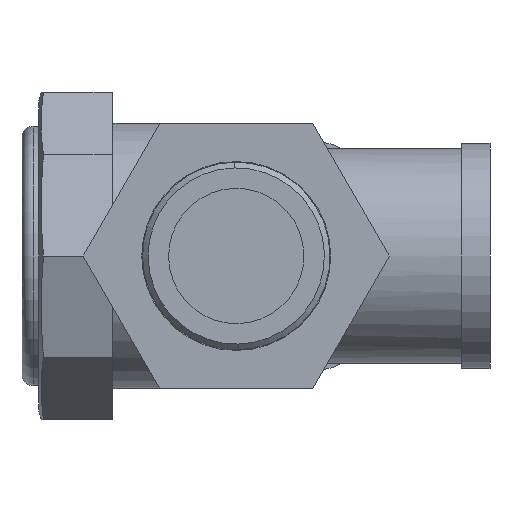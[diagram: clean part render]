
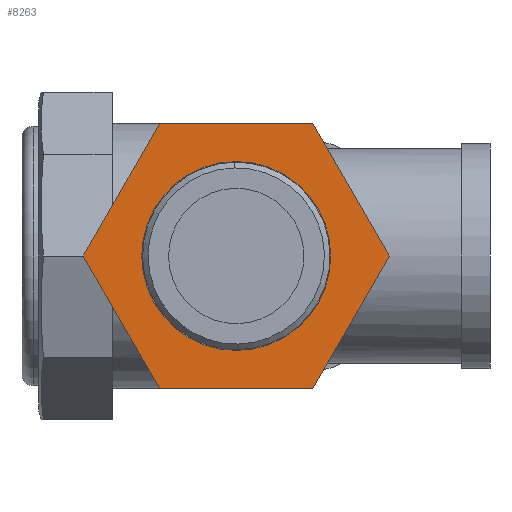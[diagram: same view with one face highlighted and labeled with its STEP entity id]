
A CAD part, left-side view. The second image highlights one B-rep face of the part: STEP entity #8263.
In plain terms, the highlighted planar face has unit normal (-1, 0, 0).
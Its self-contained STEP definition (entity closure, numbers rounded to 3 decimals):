
#1891 = AXIS2_PLACEMENT_3D ( 'NONE', #1899, #1953, #1952 ) ;
#1892 = CIRCLE ( 'NONE', #1891, 16.75 ) ;
#1899 = CARTESIAN_POINT ( 'NONE',  ( -53.077, 6.155, 0. ) ) ;
#1952 = DIRECTION ( 'NONE',  ( 0., -0.5, -0.866 ) ) ;
#1953 = DIRECTION ( 'NONE',  ( -1., 0., 0. ) ) ;
#2046 = DIRECTION ( 'NONE',  ( 0., 0.5, 0.866 ) ) ;
#2047 = DIRECTION ( 'NONE',  ( 1., 0., 0. ) ) ;
#2048 = CARTESIAN_POINT ( 'NONE',  ( -53.077, -34.548, 23.5 ) ) ;
#2049 = AXIS2_PLACEMENT_3D ( 'NONE', #2048, #2047, #2046 ) ;
#2050 = PLANE ( 'NONE',  #2049 ) ;
#2057 = FACE_BOUND ( 'NONE', #8210, .T. ) ;
#2063 = CARTESIAN_POINT ( 'NONE',  ( -53.077, 19.723, 23.5 ) ) ;
#2064 = CARTESIAN_POINT ( 'NONE',  ( -53.077, -7.413, 23.5 ) ) ;
#2065 = DIRECTION ( 'NONE',  ( 0., 1., 0. ) ) ;
#2066 = VECTOR ( 'NONE', #2065, 1000. ) ;
#2067 = CARTESIAN_POINT ( 'NONE',  ( -53.077, -7.413, 23.5 ) ) ;
#2068 = LINE ( 'NONE', #2067, #2066 ) ;
#2074 = FACE_OUTER_BOUND ( 'NONE', #8103, .T. ) ;
#2130 = DIRECTION ( 'NONE',  ( 0., -0.5, -0.866 ) ) ;
#2134 = CARTESIAN_POINT ( 'NONE',  ( -53.077, 33.29, 0. ) ) ;
#2135 = DIRECTION ( 'NONE',  ( 0., 0.5, -0.866 ) ) ;
#2136 = VECTOR ( 'NONE', #2135, 1000. ) ;
#2144 = DIRECTION ( 'NONE',  ( -1., 0., 0. ) ) ;
#2145 = CARTESIAN_POINT ( 'NONE',  ( -53.077, 6.155, 0. ) ) ;
#2146 = AXIS2_PLACEMENT_3D ( 'NONE', #2145, #2144, #2130 ) ;
#2147 = CIRCLE ( 'NONE', #2146, 16.75 ) ;
#2161 = CARTESIAN_POINT ( 'NONE',  ( -53.077, -20.981, 0. ) ) ;
#2162 = DIRECTION ( 'NONE',  ( 0., -0.5, 0.866 ) ) ;
#2163 = VECTOR ( 'NONE', #2162, 1000. ) ;
#2164 = CARTESIAN_POINT ( 'NONE',  ( -53.077, -7.413, -23.5 ) ) ;
#2165 = LINE ( 'NONE', #2164, #2163 ) ;
#2184 = DIRECTION ( 'NONE',  ( 0., -0.5, -0.866 ) ) ;
#2185 = VECTOR ( 'NONE', #2184, 1000. ) ;
#2186 = CARTESIAN_POINT ( 'NONE',  ( -53.077, 33.29, 0. ) ) ;
#2187 = LINE ( 'NONE', #2186, #2185 ) ;
#2193 = CARTESIAN_POINT ( 'NONE',  ( -53.077, 19.723, 23.5 ) ) ;
#2194 = LINE ( 'NONE', #2193, #2136 ) ;
#2206 = CARTESIAN_POINT ( 'NONE',  ( -53.077, 19.723, -23.5 ) ) ;
#2208 = CARTESIAN_POINT ( 'NONE',  ( -53.077, -7.413, -23.5 ) ) ;
#2209 = DIRECTION ( 'NONE',  ( 0., -1., 0. ) ) ;
#2210 = VECTOR ( 'NONE', #2209, 1000. ) ;
#2211 = CARTESIAN_POINT ( 'NONE',  ( -53.077, 19.723, -23.5 ) ) ;
#2212 = LINE ( 'NONE', #2211, #2210 ) ;
#4518 = CARTESIAN_POINT ( 'NONE',  ( -53.077, -2.22, -14.506 ) ) ;
#4521 = CARTESIAN_POINT ( 'NONE',  ( -53.077, 14.53, 14.506 ) ) ;
#4597 = DIRECTION ( 'NONE',  ( 0., 0.5, 0.866 ) ) ;
#4598 = VECTOR ( 'NONE', #4597, 1000. ) ;
#4599 = CARTESIAN_POINT ( 'NONE',  ( -53.077, -20.981, 0. ) ) ;
#4600 = LINE ( 'NONE', #4599, #4598 ) ;
#8099 = EDGE_CURVE ( 'NONE', #8186, #8185, #1892, .T. ) ;
#8103 = EDGE_LOOP ( 'NONE', ( #8265, #8137, #8312, #8316, #8321, #8208 ) ) ;
#8137 = ORIENTED_EDGE ( 'NONE', *, *, #8310, .T. ) ;
#8185 = VERTEX_POINT ( 'NONE', #4521 ) ;
#8186 = VERTEX_POINT ( 'NONE', #4518 ) ;
#8208 = ORIENTED_EDGE ( 'NONE', *, *, #8209, .T. ) ;
#8209 = EDGE_CURVE ( 'NONE', #8323, #8267, #4600, .T. ) ;
#8210 = EDGE_LOOP ( 'NONE', ( #8211, #8393 ) ) ;
#8211 = ORIENTED_EDGE ( 'NONE', *, *, #8284, .F. ) ;
#8263 = ADVANCED_FACE ( 'NONE', ( #2074, #2057 ), #2050, .F. ) ;
#8265 = ORIENTED_EDGE ( 'NONE', *, *, #8266, .T. ) ;
#8266 = EDGE_CURVE ( 'NONE', #8267, #8268, #2068, .T. ) ;
#8267 = VERTEX_POINT ( 'NONE', #2064 ) ;
#8268 = VERTEX_POINT ( 'NONE', #2063 ) ;
#8284 = EDGE_CURVE ( 'NONE', #8185, #8186, #2147, .T. ) ;
#8310 = EDGE_CURVE ( 'NONE', #8268, #8311, #2194, .T. ) ;
#8311 = VERTEX_POINT ( 'NONE', #2134 ) ;
#8312 = ORIENTED_EDGE ( 'NONE', *, *, #8314, .T. ) ;
#8314 = EDGE_CURVE ( 'NONE', #8311, #8315, #2187, .T. ) ;
#8315 = VERTEX_POINT ( 'NONE', #2206 ) ;
#8316 = ORIENTED_EDGE ( 'NONE', *, *, #8319, .T. ) ;
#8319 = EDGE_CURVE ( 'NONE', #8315, #8320, #2212, .T. ) ;
#8320 = VERTEX_POINT ( 'NONE', #2208 ) ;
#8321 = ORIENTED_EDGE ( 'NONE', *, *, #8322, .T. ) ;
#8322 = EDGE_CURVE ( 'NONE', #8320, #8323, #2165, .T. ) ;
#8323 = VERTEX_POINT ( 'NONE', #2161 ) ;
#8393 = ORIENTED_EDGE ( 'NONE', *, *, #8099, .F. ) ;
